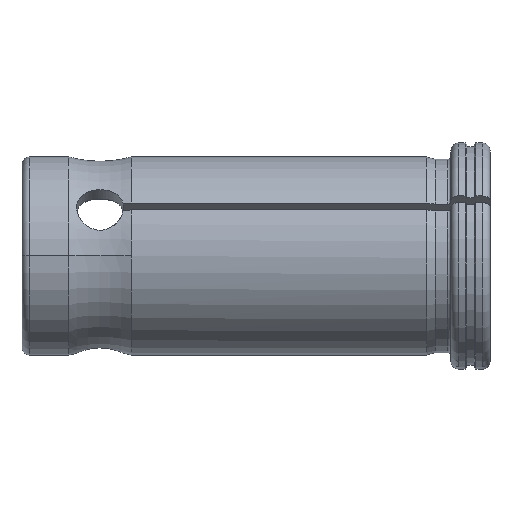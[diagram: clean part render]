
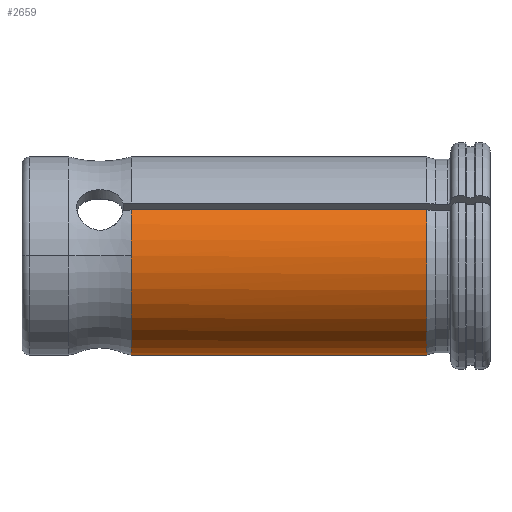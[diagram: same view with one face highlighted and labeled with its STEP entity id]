
A CAD part, top view. The second image highlights one B-rep face of the part: STEP entity #2659.
In plain terms, the highlighted cylindrical face has radius 12.7 mm (diameter 25.4 mm), a partial arc.
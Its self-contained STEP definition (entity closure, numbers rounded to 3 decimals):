
#789=CARTESIAN_POINT('',(30.88,5.912,11.24));
#806=CARTESIAN_POINT('',(30.88,-12.69,0.5));
#834=DIRECTION('',(1.,0.,0.));
#835=VECTOR('',#834,37.88);
#836=CARTESIAN_POINT('',(-7.,5.912,11.24));
#837=LINE('',#836,#835);
#838=CARTESIAN_POINT('',(30.88,0.,0.));
#839=DIRECTION('',(1.,0.,0.));
#840=DIRECTION('',(0.,0.466,0.885));
#841=AXIS2_PLACEMENT_3D('',#838,#839,#840);
#843=DIRECTION('',(1.,0.,0.));
#844=VECTOR('',#843,37.88);
#845=CARTESIAN_POINT('',(-7.,-12.69,0.5));
#846=LINE('',#845,#844);
#861=CARTESIAN_POINT('',(-7.,0.,0.));
#862=DIRECTION('',(1.,0.,0.));
#863=DIRECTION('',(0.,0.466,0.885));
#864=AXIS2_PLACEMENT_3D('',#861,#862,#863);
#1515=CARTESIAN_POINT('',(-7.,0.,0.));
#1516=DIRECTION('',(-1.,0.,0.));
#1517=DIRECTION('',(0.,-0.999,0.039));
#1518=AXIS2_PLACEMENT_3D('',#1515,#1516,#1517);
#1574=CARTESIAN_POINT('',(-7.,0.,12.7));
#1576=VERTEX_POINT('',#1574);
#1660=VERTEX_POINT('',#806);
#1662=CARTESIAN_POINT('',(-7.,-12.69,0.5));
#1663=VERTEX_POINT('',#1662);
#1796=VERTEX_POINT('',#789);
#1799=CARTESIAN_POINT('',(-7.,5.912,11.24));
#1800=VERTEX_POINT('',#1799);
#2643=CARTESIAN_POINT('',(-24.,0.,0.));
#2644=DIRECTION('',(1.,0.,0.));
#2645=DIRECTION('',(0.,0.,1.));
#2646=AXIS2_PLACEMENT_3D('',#2643,#2644,#2645);
#2647=CYLINDRICAL_SURFACE('',#2646,12.7);
#2649=ORIENTED_EDGE('',*,*,#2648,.T.);
#2650=ORIENTED_EDGE('',*,*,#2608,.T.);
#2652=ORIENTED_EDGE('',*,*,#2651,.F.);
#2654=ORIENTED_EDGE('',*,*,#2653,.T.);
#2656=ORIENTED_EDGE('',*,*,#2655,.F.);
#2657=EDGE_LOOP('',(#2649,#2650,#2652,#2654,#2656));
#2658=FACE_OUTER_BOUND('',#2657,.F.);
#2659=ADVANCED_FACE('',(#2658),#2647,.T.);
#842=CIRCLE('',#841,12.7);
#865=CIRCLE('',#864,12.7);
#1519=CIRCLE('',#1518,12.7);
#2608=EDGE_CURVE('',#1796,#1660,#842,.T.);
#2648=EDGE_CURVE('',#1800,#1796,#837,.T.);
#2651=EDGE_CURVE('',#1663,#1660,#846,.T.);
#2653=EDGE_CURVE('',#1663,#1576,#1519,.T.);
#2655=EDGE_CURVE('',#1800,#1576,#865,.T.);
